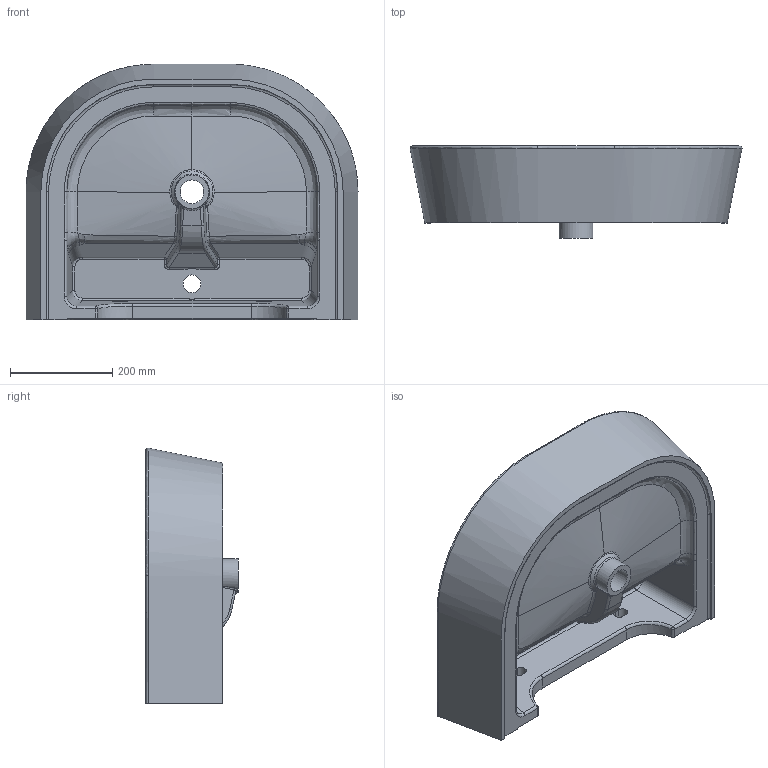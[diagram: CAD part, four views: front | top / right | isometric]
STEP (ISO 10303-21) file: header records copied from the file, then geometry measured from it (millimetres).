
FILE_DESCRIPTION (( 'STEP AP203' ), '1' );
FILE_NAME ('FMLP06550T0M.STEP', '2021-09-10T07:17:06', ( '' ), ( '' ), 'SwSTEP 2.0', 'SolidWorks 2021', '' );
FILE_SCHEMA (( 'CONFIG_CONTROL_DESIGN' ));
Length unit declared in the file: millimetre
Products named in the file (1): FMLP06550T0M
Bounding box: 648.24 x 180 x 499.12 mm (x, y, z)
Volume: 13321891.3 mm3; surface area: 1070627.8 mm2
Topology: 1 solids, 1 shells, 189 faces, 472 edges, 287 vertices
Faces by surface type: bspline 99, cylinder 54, plane 30, cone 6
Full cylindrical faces by diameter (mm): 20 x1, 35 x1, 46 x1, 66 x1
Entity records: 22126 total; most frequent: CARTESIAN_POINT 18251, ORIENTED_EDGE 930, DIRECTION 601, EDGE_CURVE 465, VERTEX_POINT 285, AXIS2_PLACEMENT_3D 234, EDGE_LOOP 204, FACE_OUTER_BOUND 193
